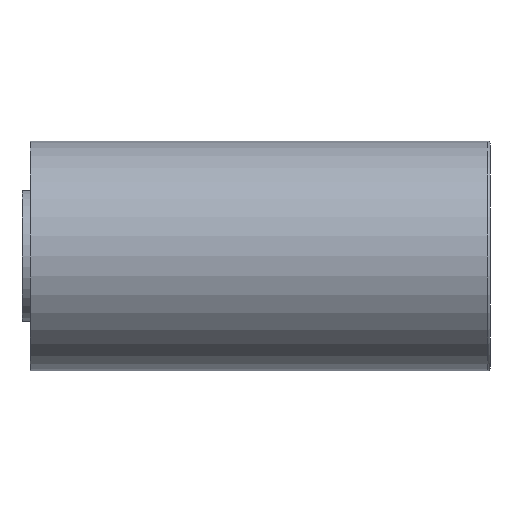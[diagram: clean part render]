
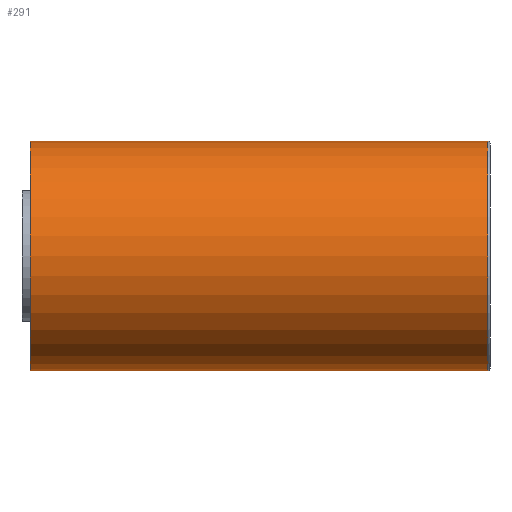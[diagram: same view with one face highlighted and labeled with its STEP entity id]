
A CAD part, front view. The second image highlights one B-rep face of the part: STEP entity #291.
In plain terms, the highlighted cylindrical face has radius 5 mm (diameter 10 mm), a full revolution.
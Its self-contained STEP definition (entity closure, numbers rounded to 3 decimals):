
#291 = ADVANCED_FACE( '', ( #602, #603 ), #604, .T. );
#602 = FACE_OUTER_BOUND( '', #975, .T. );
#603 = FACE_OUTER_BOUND( '', #976, .T. );
#604 = CYLINDRICAL_SURFACE( '', #977, 5. );
#975 = EDGE_LOOP( '', ( #2086 ) );
#976 = EDGE_LOOP( '', ( #2087 ) );
#977 = AXIS2_PLACEMENT_3D( '', #2088, #2089, #2090 );
#2086 = ORIENTED_EDGE( '', *, *, #2459, .T. );
#2087 = ORIENTED_EDGE( '', *, *, #2731, .F. );
#2088 = CARTESIAN_POINT( '', ( 18.1, 0., 0. ) );
#2089 = DIRECTION( '', ( -1., 0., 0. ) );
#2090 = DIRECTION( '', ( 0., 0., -1. ) );
#2459 = EDGE_CURVE( '', #2922, #2922, #2923, .T. );
#2731 = EDGE_CURVE( '', #3362, #3362, #3363, .T. );
#2922 = VERTEX_POINT( '', #3623 );
#2923 = CIRCLE( '', #3624, 5. );
#3362 = VERTEX_POINT( '', #4235 );
#3363 = CIRCLE( '', #4236, 5. );
#3623 = CARTESIAN_POINT( '', ( -1.9, 0., -5. ) );
#3624 = AXIS2_PLACEMENT_3D( '', #4539, #4540, #4541 );
#4235 = CARTESIAN_POINT( '', ( 18., 0., -5. ) );
#4236 = AXIS2_PLACEMENT_3D( '', #5011, #5012, #5013 );
#4539 = CARTESIAN_POINT( '', ( -1.9, 0., 0. ) );
#4540 = DIRECTION( '', ( 1., 0., 0. ) );
#4541 = DIRECTION( '', ( 0., 0., -1. ) );
#5011 = CARTESIAN_POINT( '', ( 18., 0., 0. ) );
#5012 = DIRECTION( '', ( 1., 0., 0. ) );
#5013 = DIRECTION( '', ( 0., 0., -1. ) );
